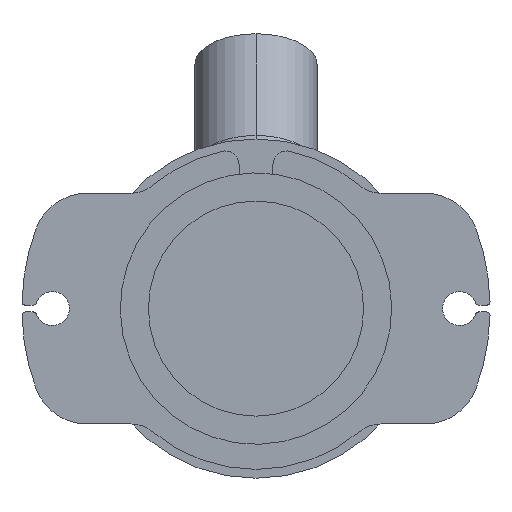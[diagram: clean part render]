
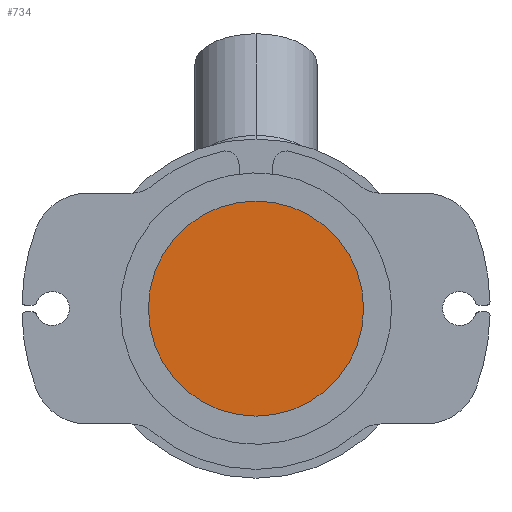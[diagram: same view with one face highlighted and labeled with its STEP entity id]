
A CAD part, front view. The second image highlights one B-rep face of the part: STEP entity #734.
In plain terms, the highlighted planar face has unit normal (0, -1, 0).
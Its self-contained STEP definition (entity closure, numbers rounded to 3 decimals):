
#125 = CARTESIAN_POINT ( 'NONE',  ( -48.002, -25.381, -0.311 ) ) ;
#300 = CARTESIAN_POINT ( 'NONE',  ( -48.002, -25.381, 31.389 ) ) ;
#525 = AXIS2_PLACEMENT_3D ( 'NONE', #5327, #5385, #719 ) ;
#719 = DIRECTION ( 'NONE',  ( 0., 0., 1. ) ) ;
#734 = ADVANCED_FACE ( 'NONE', ( #3839 ), #1117, .F. ) ;
#897 = EDGE_CURVE ( 'NONE', #2032, #3682, #4150, .T. ) ;
#1117 = PLANE ( 'NONE',  #3187 ) ;
#1210 = CARTESIAN_POINT ( 'NONE',  ( -48.002, -25.381, 15.539 ) ) ;
#1433 = DIRECTION ( 'NONE',  ( 0., 0., 1. ) ) ;
#1824 = AXIS2_PLACEMENT_3D ( 'NONE', #1833, #3702, #1433 ) ;
#1833 = CARTESIAN_POINT ( 'NONE',  ( -48.002, -25.381, 15.539 ) ) ;
#2032 = VERTEX_POINT ( 'NONE', #125 ) ;
#3097 = DIRECTION ( 'NONE',  ( 0., 0., 1. ) ) ;
#3171 = ORIENTED_EDGE ( 'NONE', *, *, #897, .F. ) ;
#3187 = AXIS2_PLACEMENT_3D ( 'NONE', #1210, #5771, #3097 ) ;
#3585 = EDGE_LOOP ( 'NONE', ( #5434, #3171 ) ) ;
#3682 = VERTEX_POINT ( 'NONE', #300 ) ;
#3702 = DIRECTION ( 'NONE',  ( 0., 1., 0. ) ) ;
#3839 = FACE_OUTER_BOUND ( 'NONE', #3585, .T. ) ;
#4150 = CIRCLE ( 'NONE', #525, 15.85 ) ;
#4389 = CIRCLE ( 'NONE', #1824, 15.85 ) ;
#4656 = EDGE_CURVE ( 'NONE', #3682, #2032, #4389, .T. ) ;
#5327 = CARTESIAN_POINT ( 'NONE',  ( -48.002, -25.381, 15.539 ) ) ;
#5385 = DIRECTION ( 'NONE',  ( 0., 1., 0. ) ) ;
#5434 = ORIENTED_EDGE ( 'NONE', *, *, #4656, .F. ) ;
#5771 = DIRECTION ( 'NONE',  ( 0., 1., 0. ) ) ;
